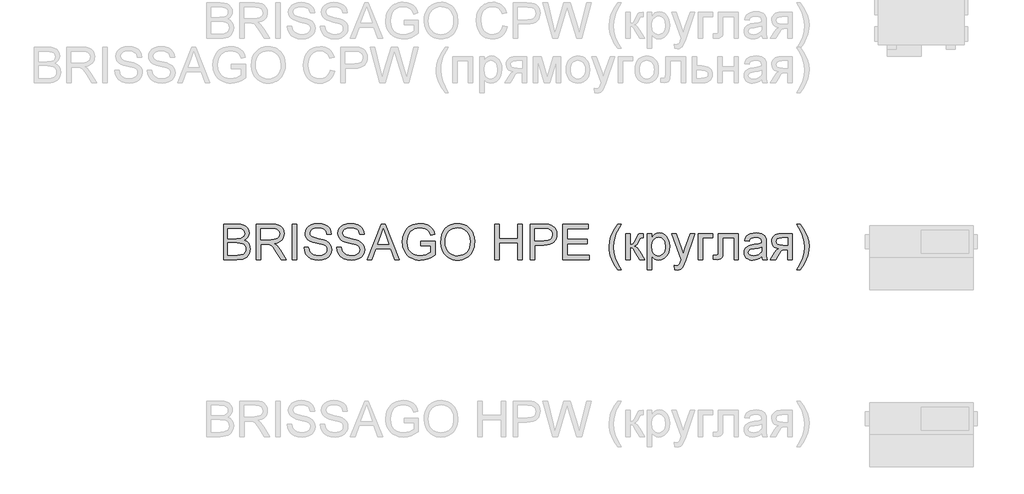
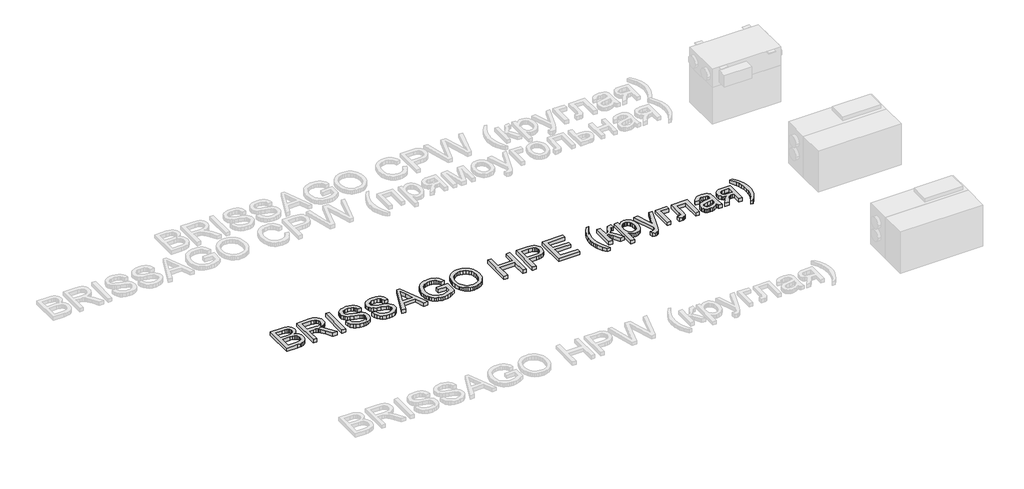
# One storey, part 16 of 28: 1 proxy.
"""IFC4 building model written with IfcOpenShell, lengths in millimetres."""

import ifcopenshell
import ifcopenshell.guid

model = None  # the IFC model being written
_history = None  # IfcOwnerHistory: only IFC2X3 demands one
_inside = {}  # id of a spatial element -> (the spatial element, [elements in it])
_under = {}  # id of a project, library or spatial element -> (it, [spatial elements below it])
_declared = {}  # id of a project -> (the project, [libraries it declares])
_typed = {}  # id of a type object -> (the type object, [elements of that type])
_made_of = {}  # id of a material, layer set ... -> (it, [elements and type objects made of it])


def new_model(schema):
    """Start an empty IFC model of exactly this schema.

    Asked for "IFC4X3", IfcOpenShell would pick the latest addendum, in which some entities
    have other attributes; the version numbers below select the first issue.
    IFC2X3 requires an IfcOwnerHistory on every rooted entity: one is made here for all.
    """
    global model, _history
    if schema == "IFC4X3":
        model = ifcopenshell.file(schema_version=(4, 3, 0, 0))
    else:
        model = ifcopenshell.file(schema=schema)
    _inside.clear()
    _under.clear()
    _declared.clear()
    _typed.clear()
    _made_of.clear()
    _history = None
    if model.schema == "IFC2X3":
        org = make("IfcOrganization", Name="unknown")
        user = make(
            "IfcPersonAndOrganization",
            ThePerson=make("IfcPerson", FamilyName="unknown"),
            TheOrganization=org,
        )
        app = make(
            "IfcApplication",
            ApplicationDeveloper=org,
            Version="unknown",
            ApplicationFullName="unknown",
            ApplicationIdentifier="unknown",
        )
        _history = make(
            "IfcOwnerHistory",
            OwningUser=user,
            OwningApplication=app,
            ChangeAction="ADDED",
            CreationDate=0,
        )
    return model


def make(cls, **values):
    """One entity of the class cls with the attributes given. An attribute that is None is left unset."""
    return model.create_entity(
        cls, **{name: value for name, value in values.items() if value is not None}
    )


def rooted(cls, **values):
    """An entity with a GlobalId (a new one), such as an element, a storey or a relation."""
    return make(cls, GlobalId=ifcopenshell.guid.new(), OwnerHistory=_history, **values)


def si_unit(unit_type, name, prefix=None):
    """IfcSIUnit, for example si_unit("LENGTHUNIT", "METRE", prefix="MILLI")."""
    return make("IfcSIUnit", UnitType=unit_type, Prefix=prefix, Name=name)


def assignment(units):
    """IfcUnitAssignment: the units of a project."""
    return None if units is None else make("IfcUnitAssignment", Units=units)


def point(xyz):
    """IfcCartesianPoint."""
    return None if xyz is None else make("IfcCartesianPoint", Coordinates=xyz)


def direction(xyz):
    """IfcDirection."""
    return None if xyz is None else make("IfcDirection", DirectionRatios=xyz)


def frame(location, z_axis=None, x_axis=None):
    """IfcAxis2Placement3D, a coordinate frame: its origin and axes. An axis left out is left unset."""
    return make(
        "IfcAxis2Placement3D",
        Location=point(location),
        Axis=direction(z_axis),
        RefDirection=direction(x_axis),
    )


def origin():
    """The frame at (0, 0, 0) with its axes left unset."""
    return frame((0.0, 0.0, 0.0))


def origin_with_axes():
    """The frame at (0, 0, 0) with the z axis (0, 0, 1) and the x axis (1, 0, 0) written out."""
    return frame((0.0, 0.0, 0.0), z_axis=(0.0, 0.0, 1.0), x_axis=(1.0, 0.0, 0.0))


def place(relative_to, where):
    """IfcLocalPlacement: puts the frame where relative to a parent placement (None: the world)."""
    return make(
        "IfcLocalPlacement", PlacementRelTo=relative_to, RelativePlacement=where
    )


def context(
    kind, dimensions, precision=None, world=None, true_north=None, identifier=None
):
    """IfcGeometricRepresentationContext, for example the 3D "Model" context."""
    return make(
        "IfcGeometricRepresentationContext",
        ContextIdentifier=identifier,
        ContextType=kind,
        CoordinateSpaceDimension=dimensions,
        Precision=precision,
        WorldCoordinateSystem=world,
        TrueNorth=true_north,
    )


def project(units=None, contexts=None):
    """IfcProject with its units and contexts."""
    return rooted(
        "IfcProject",
        Name="project",
        RepresentationContexts=contexts,
        UnitsInContext=assignment(units),
    )


def spatial(cls, under=None, at=None, **own):
    """A site, building, storey or space (cls), placed at a placement, below another one or the project."""
    s = rooted(cls, ObjectPlacement=at, **own)
    if under is not None:
        _under.setdefault(under.id(), (under, []))[1].append(s)
    return s


def polyline(points):
    """IfcPolyline through the points."""
    return make("IfcPolyline", Points=[point(p) for p in points])


def outline(outer, holes=None, kind="AREA"):
    """IfcArbitraryClosedProfileDef: a profile drawn as a closed curve; with holes, ...WithVoids."""
    if holes is None:
        return make("IfcArbitraryClosedProfileDef", ProfileType=kind, OuterCurve=outer)
    return make(
        "IfcArbitraryProfileDefWithVoids",
        ProfileType=kind,
        OuterCurve=outer,
        InnerCurves=holes,
    )


def extrude(swept, where, along, depth):
    """IfcExtrudedAreaSolid: the profile swept, set in the frame where, extruded along a direction by depth."""
    return make(
        "IfcExtrudedAreaSolid",
        SweptArea=swept,
        Position=where,
        ExtrudedDirection=direction(along),
        Depth=depth,
    )


def shape(context_of_items, identifier, shape_type, items):
    """IfcShapeRepresentation: the items that make up one representation, for example the "Body"."""
    return make(
        "IfcShapeRepresentation",
        ContextOfItems=context_of_items,
        RepresentationIdentifier=identifier,
        RepresentationType=shape_type,
        Items=items,
    )


def made_of(thing, what):
    """Note that an element or type object is made of a material, layer set ...; save() writes the relation."""
    if what is not None:
        _made_of.setdefault(what.id(), (what, []))[1].append(thing)
    return thing


def element(
    cls,
    number,
    at=None,
    inside=None,
    cuts=None,
    type_object=None,
    material=None,
    context=None,
    identifier="Body",
    shape_type=None,
    held_by="IfcProductDefinitionShape",
    body=None,
    shapes=None,
    **own,
):
    """One element of the class cls, such as IfcWall. Its Tag is "e" and its number.

    at: its placement. inside: the storey or other place that contains it. cuts: it is an
    opening in that element (IfcRelVoidsElement). A single representation is given by context,
    identifier, shape_type and body (its items); several are given by shapes. held_by: the class
    of the entity that holds the representations. save() writes the other relations.
    """
    e = rooted(cls, Tag="e%d" % number, ObjectPlacement=at, **own)
    if body is not None:
        shapes = [shape(context, identifier, shape_type, body)]
    if shapes is not None:
        e.Representation = make(held_by, Representations=shapes)
    if inside is not None:
        _inside.setdefault(inside.id(), (inside, []))[1].append(e)
    if cuts is not None:
        rooted(
            "IfcRelVoidsElement", RelatingBuildingElement=cuts, RelatedOpeningElement=e
        )
    if type_object is not None:
        _typed.setdefault(type_object.id(), (type_object, []))[1].append(e)
    return made_of(e, material)


def aggregate(whole, parts):
    """IfcRelAggregates: a whole, such as a stair, and the parts it consists of."""
    return rooted("IfcRelAggregates", RelatingObject=whole, RelatedObjects=parts)


def save(model, path):
    """Write the relations noted so far, then the file.

    IfcRelAggregates (storeys below a building ...), IfcRelContainedInSpatialStructure (elements
    in a storey), IfcRelDefinesByType, IfcRelAssociatesMaterial and IfcRelDeclares: one each for
    every whole, place, type object, material and project.
    """
    for whole, parts in _under.values():
        aggregate(whole, parts)
    for where, things in _inside.values():
        rooted(
            "IfcRelContainedInSpatialStructure",
            RelatedElements=things,
            RelatingStructure=where,
        )
    for kind, things in _typed.values():
        rooted("IfcRelDefinesByType", RelatedObjects=things, RelatingType=kind)
    for what, things in _made_of.values():
        rooted("IfcRelAssociatesMaterial", RelatedObjects=things, RelatingMaterial=what)
    for by, libraries in _declared.values():
        rooted("IfcRelDeclares", RelatingContext=by, RelatedDefinitions=libraries)
    model.write(path)


model = new_model("IFC4")

# Units and contexts
model_context = context("Model", 3, world=origin())
ifc_project = project(units=[si_unit("LENGTHUNIT", "METRE", prefix="MILLI")], contexts=[model_context])

# Site, building, storey
site = spatial("IfcSite", under=ifc_project)
building = spatial("IfcBuilding", under=site)
storey = spatial("IfcBuildingStorey", under=building, Name="Уровень 1", Elevation=0.0)

# Proxy
placement = place(None, origin())
element("IfcBuildingElementProxy", 1, Name="400 мм Arial", ObjectType="400 мм Arial", at=placement, inside=storey, context=model_context, shape_type="SweptSolid", body=[
    extrude(outline(polyline([(-28564.9960221, 5771.3067858), (-28564.9960221, 6173.1320263), (-28411.6628065, 6173.1320263), (-28369.4912671, 6170.1767077), (-28336.5658286, 6161.3107516), (-28311.3291237, 6146.3134289), (-28292.2237854, 6124.9640104), (-28280.1940442, 6099.8499329), (-28276.1841304, 6073.558633), (-28279.556382, 6049.3642604), (-28289.6731369, 6026.6168904), (-28306.6079714, 6006.7144745), (-28330.434462, 5991.0549642), (-28301.9726583, 5976.1925316), (-28280.9420709, 5953.5800516), (-28267.9558365, 5924.7135777), (-28263.6270917, 5891.0891634), (-28266.5824103, 5863.0688181), (-28275.4483664, 5837.0840865), (-28288.6798555, 5814.9866413), (-28304.7317732, 5798.6281553), (-28324.3889345, 5786.782355), (-28348.4361543, 5778.2229673), (-28377.6582474, 5773.0358311), (-28412.8400289, 5771.3067858), (-28564.9960221, 5771.3067858)]), holes=[polyline([(-28514.767867, 6009.8905224), (-28423.0426229, 6009.8905224), (-28369.4790044, 6014.2070044), (-28350.7292854, 6021.6504835), (-28337.2525416, 6032.7973079), (-28329.1223495, 6047.4757995), (-28326.4122855, 6065.51428), (-28328.9384085, 6083.025463), (-28336.5167776, 6098.2803031), (-28348.8040363, 6110.187417), (-28365.4568279, 6117.6554215), (-28391.0123639, 6121.5917588), (-28430.0078553, 6122.9038713), (-28514.767867, 6122.9038713), (-28514.767867, 6009.8905224)]), polyline([(-28514.767867, 5821.5349408), (-28411.7609084, 5821.5349408), (-28374.4821995, 5823.4969781), (-28342.9424498, 5834.4353361), (-28331.3664297, 5843.8653779), (-28322.0467525, 5856.7535105), (-28315.9031232, 5872.5233854), (-28313.8552467, 5890.5986541), (-28316.2587424, 5911.5924532), (-28323.4692295, 5929.6431965), (-28336.0630565, 5943.7576024), (-28354.6165718, 5952.9423895), (-28380.895609, 5957.9823728), (-28416.6660016, 5959.6623673), (-28514.767867, 5959.6623673), (-28514.767867, 5821.5349408)])]), origin_with_axes(), (0.0, 0.0, 1.0), 50.0),
    extrude(outline(polyline([(-28194.5633784, 5771.3067858), (-28194.5633784, 6173.1320263), (-28021.413586, 6173.1320263), (-27974.8765136, 6170.4219623), (-27941.0191074, 6162.2917702), (-27916.2729118, 6147.2821848), (-27897.0694717, 6123.9339409), (-27884.7454248, 6094.9816278), (-27880.6374092, 6063.1598353), (-27882.3388634, 6042.5216553), (-27887.4432261, 6023.5757326), (-27895.9504973, 6006.322067), (-27907.8606769, 5990.7606586), (-27923.3270491, 5977.3881481), (-27942.5028981, 5966.7011761), (-27965.3882238, 5958.6997427), (-27991.9830264, 5953.3838479), (-27963.4353836, 5931.8995394), (-27922.7231095, 5880.1998563), (-27855.7195354, 5771.3067858), (-27914.0901453, 5771.3067858), (-27966.3784396, 5854.5952695), (-28004.1476577, 5909.7285178), (-28018.1884872, 5925.804961), (-28030.6842123, 5935.7745631), (-28054.5720165, 5945.3394949), (-28083.7082705, 5947.1053285), (-28144.3352234, 5947.1053285), (-28144.3352234, 5771.3067858), (-28194.5633784, 5771.3067858)]), holes=[polyline([(-28144.3352234, 5997.3334836), (-28031.9104856, 5997.3334836), (-27999.6227092, 5999.1115799), (-27974.5699453, 6004.4458688), (-27955.7098617, 6013.6919696), (-27942.000126, 6027.2055016), (-27933.6492047, 6043.5517249), (-27930.8655643, 6061.2958998), (-27936.1753277, 6085.7968407), (-27952.1046181, 6105.5398411), (-27964.2661838, 6113.1366043), (-27979.5118268, 6118.5628637), (-28019.255345, 6122.9038713), (-28144.3352234, 6122.9038713), (-28144.3352234, 5997.3334836)])]), origin_with_axes(), (0.0, 0.0, 1.0), 50.0),
    extrude(outline(polyline([(-27786.4596184, 5771.3067858), (-27786.4596184, 6173.1320263), (-27736.2314634, 6173.1320263), (-27736.2314634, 5771.3067858), (-27786.4596184, 5771.3067858)])), origin_with_axes(), (0.0, 0.0, 1.0), 50.0),
    extrude(outline(polyline([(-27654.6107114, 5909.4342122), (-27604.3825563, 5909.4342122), (-27598.6190717, 5881.5610197), (-27588.1957485, 5859.1570062), (-27571.9353643, 5841.3760431), (-27548.6606968, 5827.3720018), (-27520.2111558, 5818.2853165), (-27488.4261514, 5815.2564214), (-27460.4425943, 5817.5495525), (-27435.9416534, 5824.4289459), (-27416.0882884, 5835.3182529), (-27402.047459, 5849.6411253), (-27393.6965377, 5866.0854504), (-27390.9128972, 5883.339116), (-27392.9975619, 5900.1513232), (-27399.2515558, 5914.682662), (-27411.9557474, 5927.0802852), (-27433.3910049, 5937.4913457), (-27506.5259456, 5956.6702604), (-27554.534546, 5969.3621892), (-27585.2526925, 5981.4409814), (-27610.2564055, 5998.3390277), (-27627.9760549, 6018.8177921), (-27638.5342682, 6042.4358162), (-27642.0536726, 6068.7516416), (-27637.7004023, 6098.1699385), (-27624.6405915, 6125.6016726), (-27603.2175966, 6148.8518147), (-27573.7747743, 6165.7253355), (-27538.4335773, 6175.9892432), (-27499.3154585, 6179.4105457), (-27456.9354526, 6175.8298276), (-27419.8529475, 6165.0876734), (-27389.3923183, 6147.4048122), (-27366.8779402, 6123.0019731), (-27352.6286443, 6093.3997353), (-27346.9632615, 6060.1186774), (-27397.1914166, 6060.1186774), (-27406.412992, 6090.0887973), (-27414.776176, 6101.9468603), (-27425.6409576, 6111.7202586), (-27455.6846538, 6124.8168576), (-27497.3534212, 6129.1823907), (-27540.0032071, 6124.8659086), (-27556.3065109, 6119.470306), (-27569.2620885, 6111.9164624), (-27586.1846603, 6092.860175), (-27591.8255175, 6070.2231696), (-27587.8278665, 6050.9216276), (-27575.8349135, 6035.3970074), (-27547.4834744, 6021.5155934), (-27493.821754, 6007.3398739), (-27438.443251, 5993.8753928), (-27404.941464, 5982.1276945), (-27376.307982, 5963.905273), (-27356.3319897, 5941.4154203), (-27344.596554, 5914.9033912), (-27340.6847422, 5884.6144403), (-27345.1851652, 5853.651039), (-27358.6864345, 5824.5270477), (-27380.6367268, 5799.4620211), (-27410.4842194, 5780.6755139), (-27446.3772394, 5768.9400782), (-27486.4641141, 5765.0282664), (-27535.6744623, 5769.2466466), (-27576.17827, 5781.9017872), (-27608.441521, 5803.0427392), (-27632.9301991, 5832.7185535), (-27648.6510231, 5868.8690909), (-27654.6107114, 5909.4342122)])), origin_with_axes(), (0.0, 0.0, 1.0), 50.0),
    extrude(outline(polyline([(-27284.1780677, 5909.4342122), (-27233.9499126, 5909.4342122), (-27228.186428, 5881.5610197), (-27217.7631048, 5859.1570062), (-27201.5027206, 5841.3760431), (-27178.2280531, 5827.3720018), (-27149.7785121, 5818.2853165), (-27117.9935077, 5815.2564214), (-27090.0099506, 5817.5495525), (-27065.5090098, 5824.4289459), (-27045.6556448, 5835.3182529), (-27031.6148153, 5849.6411253), (-27023.263894, 5866.0854504), (-27020.4802536, 5883.339116), (-27022.5649182, 5900.1513232), (-27028.8189121, 5914.682662), (-27041.5231037, 5927.0802852), (-27062.9583613, 5937.4913457), (-27136.0933019, 5956.6702604), (-27184.1019023, 5969.3621892), (-27214.8200489, 5981.4409814), (-27239.8237618, 5998.3390277), (-27257.5434112, 6018.8177921), (-27268.1016245, 6042.4358162), (-27271.6210289, 6068.7516416), (-27267.2677587, 6098.1699385), (-27254.2079478, 6125.6016726), (-27232.784953, 6148.8518147), (-27203.3421306, 6165.7253355), (-27168.0009336, 6175.9892432), (-27128.8828148, 6179.4105457), (-27086.502809, 6175.8298276), (-27049.4203038, 6165.0876734), (-27018.9596746, 6147.4048122), (-26996.4452965, 6123.0019731), (-26982.1960006, 6093.3997353), (-26976.5306179, 6060.1186774), (-27026.7587729, 6060.1186774), (-27035.9803483, 6090.0887973), (-27044.3435323, 6101.9468603), (-27055.2083139, 6111.7202586), (-27085.2520102, 6124.8168576), (-27126.9207775, 6129.1823907), (-27169.5705635, 6124.8659086), (-27185.8738672, 6119.470306), (-27198.8294448, 6111.9164624), (-27215.7520166, 6092.860175), (-27221.3928739, 6070.2231696), (-27217.3952228, 6050.9216276), (-27205.4022698, 6035.3970074), (-27177.0508307, 6021.5155934), (-27123.3891103, 6007.3398739), (-27068.0106073, 5993.8753928), (-27034.5088203, 5982.1276945), (-27005.8753383, 5963.905273), (-26985.899346, 5941.4154203), (-26974.1639104, 5914.9033912), (-26970.2520985, 5884.6144403), (-26974.7525216, 5853.651039), (-26988.2537908, 5824.5270477), (-27010.2040832, 5799.4620211), (-27040.0515757, 5780.6755139), (-27075.9445957, 5768.9400782), (-27116.0314704, 5765.0282664), (-27165.2418187, 5769.2466466), (-27205.7456263, 5781.9017872), (-27238.0088773, 5803.0427392), (-27262.4975554, 5832.7185535), (-27278.2183794, 5868.8690909), (-27284.1780677, 5909.4342122)])), origin_with_axes(), (0.0, 0.0, 1.0), 50.0),
    extrude(outline(polyline([(-26941.7044557, 5771.3067858), (-26781.3079058, 6173.1320263), (-26738.5354924, 6173.1320263), (-26578.1389426, 5771.3067858), (-26631.2120517, 5771.3067858), (-26677.2218266, 5896.8771734), (-26842.7196735, 5896.8771734), (-26888.6313465, 5771.3067858), (-26941.7044557, 5771.3067858)]), holes=[polyline([(-26824.2765228, 5947.1053285), (-26695.5668754, 5947.1053285), (-26731.7664637, 6045.893907), (-26759.9216991, 6122.9038713), (-26784.9376748, 6054.5268711), (-26824.2765228, 5947.1053285)])]), origin_with_axes(), (0.0, 0.0, 1.0), 50.0),
    extrude(outline(polyline([(-26336.1216407, 5928.2697704), (-26336.1216407, 5978.4979254), (-26172.8801367, 5978.4979254), (-26172.8801367, 5828.3039695), (-26212.5500785, 5800.7128199), (-26253.4708191, 5780.9207686), (-26295.5442566, 5769.0013919), (-26338.6722892, 5765.0282664), (-26367.5234346, 5766.6070933), (-26395.0195481, 5771.343574), (-26421.1606295, 5779.2377084), (-26445.946679, 5790.2894967), (-26468.577553, 5804.3333919), (-26488.2531084, 5821.203847), (-26504.9733451, 5840.9008622), (-26518.7382631, 5863.4244373), (-26529.4896144, 5888.0541369), (-26537.169151, 5914.0695253), (-26541.776873, 5941.4706026), (-26543.3127803, 5970.2573687), (-26537.1936765, 6026.8498823), (-26529.5447967, 6053.6654141), (-26518.8363649, 6079.4937958), (-26505.2584536, 6103.2007247), (-26489.0011351, 6123.651898), (-26470.0644094, 6140.8473156), (-26448.4482765, 6154.7869775), (-26424.621786, 6165.5597886), (-26399.0539873, 6173.2546537), (-26371.7448805, 6177.8715727), (-26342.6944656, 6179.4105457), (-26301.3200039, 6175.8420904), (-26264.1148715, 6165.1367243), (-26232.7835882, 6148.0669997), (-26209.0306741, 6125.4054688), (-26191.4581774, 6096.0607484), (-26178.6681467, 6058.941455), (-26224.9722272, 6045.893907), (-26235.3097112, 6072.3691479), (-26247.8790127, 6092.3451402), (-26264.5072789, 6107.4037765), (-26287.021657, 6119.1269495), (-26313.86478, 6126.6685304), (-26343.4792806, 6129.1823907), (-26378.1460272, 6126.4723266), (-26407.7850533, 6118.3421345), (-26432.2859942, 6105.8096212), (-26451.5384853, 6089.8925936), (-26466.3150788, 6071.4126547), (-26477.3883268, 6051.1914077), (-26489.1605507, 6013.2750367), (-26493.0846253, 5972.3175079), (-26488.363473, 5924.2843821), (-26474.2000162, 5884.7615931), (-26451.0234505, 5854.0311837), (-26419.2629716, 5832.375197), (-26382.0946273, 5819.5361153), (-26342.6944656, 5815.2564214), (-26307.9050916, 5818.4815203), (-26273.9741089, 5828.1568167), (-26244.5067611, 5841.4864077), (-26223.1082917, 5855.67439), (-26223.1082917, 5928.2697704), (-26336.1216407, 5928.2697704)])), origin_with_axes(), (0.0, 0.0, 1.0), 50.0),
    extrude(outline(polyline([(-26110.0949428, 5966.9219053), (-26106.7472167, 6014.0537203), (-26096.7040382, 6055.7776699), (-26079.9654074, 6092.0937542), (-26056.5313243, 6123.0019731), (-26027.8058719, 6147.6807237), (-25995.193133, 6165.3084026), (-25958.6931077, 6175.8850099), (-25918.305796, 6179.4105457), (-25891.2726007, 6177.7550768), (-25865.6005688, 6172.7886698), (-25841.2897003, 6164.5113249), (-25818.3399952, 6152.9230421), (-25797.3952469, 6138.3733092), (-25779.099249, 6121.2116141), (-25763.4520015, 6101.4379569), (-25750.4535043, 6079.0523374), (-25740.2386476, 6054.5636593), (-25732.9423214, 6028.4808258), (-25727.1052604, 5971.532693), (-25728.6411677, 5941.8752728), (-25733.2488897, 5913.8242707), (-25740.9284263, 5887.3796866), (-25751.6797777, 5862.5415206), (-25765.2484919, 5839.9658288), (-25781.3801174, 5820.3086675), (-25800.0746541, 5803.5700367), (-25821.3321021, 5789.7499364), (-25844.3155297, 5778.9342058), (-25868.1880055, 5771.2086839), (-25892.9495295, 5766.5733707), (-25918.6001016, 5765.0282664), (-25946.1054121, 5766.735852), (-25972.1146692, 5771.8586087), (-25996.6278728, 5780.3965367), (-26019.6450229, 5792.3496359), (-26040.5652457, 5807.254988), (-26058.7876672, 5824.6496751), (-26074.3122874, 5844.5336969), (-26087.1391063, 5866.9070536), (-26104.3559837, 5915.5287906), (-26110.0949428, 5966.9219053)]), holes=[polyline([(-26059.8667877, 5966.431396), (-26057.3559931, 5933.1319441), (-26049.8236093, 5903.5726258), (-26037.2696362, 5877.7534411), (-26019.6940739, 5855.67439), (-25998.329327, 5837.9915287), (-25974.4078003, 5825.3609136), (-25947.9294937, 5817.7825445), (-25918.8944072, 5815.2564214), (-25889.36268, 5817.8070699), (-25862.5716737, 5825.4590154), (-25838.5213883, 5838.2122579), (-25817.2118237, 5856.0667974), (-25799.7650201, 5878.6118324), (-25787.3030175, 5905.4365612), (-25779.825816, 5936.5409839), (-25777.3334155, 5971.9251005), (-25781.6008466, 6016.3897709), (-25794.40314, 6054.8211767), (-25815.409202, 6086.2505618), (-25844.2879386, 6109.7091704), (-25879.1263635, 6124.3140856), (-25918.0114904, 6129.1823907), (-25946.0379671, 6126.8371429), (-25972.0410928, 6119.8013998), (-25996.0208675, 6108.0751612), (-26017.9772912, 6091.6584272), (-26036.303946, 6069.7602514), (-26049.3944136, 6041.5896876), (-26057.2486942, 6007.1467358), (-26059.8667877, 5966.431396)])]), origin_with_axes(), (0.0, 0.0, 1.0), 50.0),
    extrude(outline(polyline([(-25501.0785625, 5771.3067858), (-25501.0785625, 6173.1320263), (-25450.8504075, 6173.1320263), (-25450.8504075, 6009.8905224), (-25237.3807484, 6009.8905224), (-25237.3807484, 6173.1320263), (-25187.1525933, 6173.1320263), (-25187.1525933, 5771.3067858), (-25237.3807484, 5771.3067858), (-25237.3807484, 5959.6623673), (-25450.8504075, 5959.6623673), (-25450.8504075, 5771.3067858), (-25501.0785625, 5771.3067858)])), origin_with_axes(), (0.0, 0.0, 1.0), 50.0),
    extrude(outline(polyline([(-25099.2533219, 5771.3067858), (-25099.2533219, 6173.1320263), (-24950.3346903, 6173.1320263), (-24890.2963487, 6169.3060536), (-24863.5268022, 6162.1568802), (-24841.4906707, 6150.5195464), (-24823.7464958, 6133.8667547), (-24809.8528191, 6111.6712077), (-24800.8764984, 6085.4902724), (-24797.8843915, 6056.8813159), (-24799.9046768, 6032.2148281), (-24805.9655327, 6009.5226404), (-24816.0669591, 5988.8047527), (-24830.2089561, 5970.061165), (-24849.6239284, 5954.5242821), (-24875.5442807, 5943.4265086), (-24907.9700129, 5936.7678444), (-24946.901125, 5934.5482897), (-25049.0251669, 5934.5482897), (-25049.0251669, 5771.3067858), (-25099.2533219, 5771.3067858)]), holes=[polyline([(-25049.0251669, 5984.7764448), (-24943.958069, 5984.7764448), (-24899.4198222, 5989.3872325), (-24882.8160814, 5995.1507171), (-24869.9892625, 6003.2195955), (-24860.4181993, 6013.3792699), (-24853.5817256, 6025.4151426), (-24848.1125466, 6055.1154823), (-24851.3376454, 6077.6789113), (-24861.0129419, 6096.7106732), (-24875.9366881, 6111.0335456), (-24894.9071364, 6119.470306), (-24945.1352914, 6122.9038713), (-25049.0251669, 6122.9038713), (-25049.0251669, 5984.7764448)])]), origin_with_axes(), (0.0, 0.0, 1.0), 50.0),
    extrude(outline(polyline([(-24728.8206783, 5771.3067858), (-24728.8206783, 6173.1320263), (-24440.0087866, 6173.1320263), (-24440.0087866, 6122.9038713), (-24678.5925232, 6122.9038713), (-24678.5925232, 6003.612003), (-24452.5658254, 6003.612003), (-24452.5658254, 5953.3838479), (-24678.5925232, 5953.3838479), (-24678.5925232, 5821.5349408), (-24433.7302672, 5821.5349408), (-24433.7302672, 5771.3067858), (-24728.8206783, 5771.3067858)])), origin_with_axes(), (0.0, 0.0, 1.0), 50.0),
    extrude(outline(polyline([(-24107.2472592, 5658.2934368), (-24146.1691743, 5712.9116504), (-24178.5673153, 5776.1137772), (-24191.3144265, 5810.1673872), (-24200.4195059, 5844.8341339), (-24205.8825535, 5880.1140172), (-24207.7035694, 5916.0070372), (-24202.2589158, 5978.424349), (-24185.9249552, 6038.1438596), (-24153.5022887, 6105.7850958), (-24107.2472592, 6173.1320263), (-24069.5761429, 6173.1320263), (-24116.5669364, 6093.5714135), (-24132.6065914, 6055.8021954), (-24144.8202737, 6016.4633473), (-24154.3116291, 5966.2106668), (-24157.4754143, 5915.7127316), (-24151.9817098, 5851.3211197), (-24135.5005964, 5786.9540333), (-24108.0320741, 5722.6114723), (-24069.5761429, 5658.2934368), (-24107.2472592, 5658.2934368)])), origin_with_axes(), (0.0, 0.0, 1.0), 50.0),
    extrude(outline(polyline([(-24019.3479878, 6066.3971968), (-23969.1198328, 6066.3971968), (-23969.1198328, 5940.8268091), (-23948.6901193, 5943.083152), (-23935.4708929, 5949.8521807), (-23923.7722455, 5967.5105165), (-23907.9042688, 6002.4347806), (-23884.9974832, 6047.8068933), (-23875.5551787, 6056.967155), (-23864.7884989, 6062.5712241), (-23828.0493503, 6066.3971968), (-23818.4353675, 6066.3971968), (-23818.4353675, 6015.8747361), (-23831.973425, 6016.1690417), (-23847.6697234, 6014.8446666), (-23856.4988913, 6010.871541), (-23873.7648196, 5977.8112124), (-23884.3720838, 5955.7750809), (-23894.0228548, 5942.0530824), (-23905.7092395, 5932.8928208), (-23922.4233448, 5924.5418995), (-23906.5063172, 5917.4724338), (-23890.7364423, 5904.9951028), (-23875.1137203, 5887.1099065), (-23859.638151, 5863.8168448), (-23805.8783288, 5771.3067858), (-23862.9736144, 5771.3067858), (-23915.6543161, 5861.8548075), (-23929.8790866, 5885.9510782), (-23942.1418198, 5900.1635859), (-23954.5271803, 5907.1165556), (-23969.1198328, 5909.4342122), (-23969.1198328, 5771.3067858), (-24019.3479878, 5771.3067858), (-24019.3479878, 6066.3971968)])), origin_with_axes(), (0.0, 0.0, 1.0), 50.0),
    extrude(outline(polyline([(-23774.4857318, 5658.2934368), (-23774.4857318, 6066.3971968), (-23724.2575768, 6066.3971968), (-23724.2575768, 6017.1500604), (-23707.8745653, 6041.4425348), (-23689.5295164, 6058.7943022), (-23668.1433098, 6069.2053627), (-23642.6368248, 6072.6757162), (-23608.6690539, 6067.8196739), (-23578.9687141, 6053.2515469), (-23554.7866043, 6029.854252), (-23537.3735232, 5998.510706), (-23526.8520982, 5961.5017773), (-23523.3449565, 5921.1083342), (-23527.3058193, 5878.1519799), (-23539.1884077, 5839.7328369), (-23558.6125771, 5807.8006797), (-23585.1981826, 5784.3052829), (-23616.1615839, 5769.8475205), (-23648.7191404, 5765.0282664), (-23671.809867, 5768.2533652), (-23692.4235215, 5777.9286617), (-23710.0695945, 5792.5335769), (-23724.2575768, 5810.5475319), (-23724.2575768, 5658.2934368), (-23774.4857318, 5658.2934368)]), holes=[polyline([(-23724.2575768, 5916.4975465), (-23718.825186, 5871.4687903), (-23712.0346975, 5854.0311837), (-23702.5280136, 5839.9780915), (-23678.4807938, 5821.436839), (-23664.7189415, 5816.8015258), (-23649.7982609, 5815.2564214), (-23634.6629825, 5816.8567081), (-23620.6497442, 5821.6575682), (-23607.7585459, 5829.6590016), (-23595.9893878, 5840.8610083), (-23586.1822669, 5855.4230039), (-23579.1771806, 5873.504404), (-23574.9741288, 5895.1052085), (-23573.5731115, 5920.2254174), (-23579.0422905, 5965.0089189), (-23585.8787643, 5982.5814156), (-23595.4498275, 5996.9410761), (-23619.4602591, 6016.0709399), (-23633.0657615, 6020.8534058), (-23647.7381218, 6022.4475611), (-23662.3644968, 6020.7522383), (-23676.1263491, 6015.6662697), (-23701.0564856, 5995.3223953), (-23711.206963, 5980.2239051), (-23718.457304, 5962.0536003), (-23722.8075086, 5940.8114807), (-23724.2575768, 5916.4975465)])]), origin_with_axes(), (0.0, 0.0, 1.0), 50.0),
    extrude(outline(polyline([(-23466.838282, 5658.2934368), (-23473.1168014, 5706.6576565), (-23447.6103164, 5702.2430725), (-23434.1948863, 5703.6287614), (-23423.7715631, 5707.7858279), (-23409.1543852, 5723.2368717), (-23395.420124, 5760.221275), (-23391.4960494, 5772.3859063), (-23498.2308789, 6066.3971968), (-23445.2558716, 6066.3971968), (-23388.6510953, 5902.5670816), (-23368.9326204, 5837.0350356), (-23349.2141454, 5894.9151361), (-23291.0397392, 6066.3971968), (-23238.4571394, 6066.3971968), (-23341.1697925, 5764.2434514), (-23367.8534998, 5698.7114054), (-23381.5141846, 5677.7911826), (-23396.9897539, 5663.296632), (-23414.9669207, 5654.8353461), (-23436.1323981, 5652.0149174), (-23466.838282, 5658.2934368)])), origin_with_axes(), (0.0, 0.0, 1.0), 50.0),
    extrude(outline(polyline([(-23196.8619485, 6066.3971968), (-23033.6204445, 6066.3971968), (-23033.6204445, 6016.1690417), (-23146.6337934, 6016.1690417), (-23146.6337934, 5771.3067858), (-23196.8619485, 5771.3067858), (-23196.8619485, 6066.3971968)])), origin_with_axes(), (0.0, 0.0, 1.0), 50.0),
    extrude(outline(polyline([(-22970.8352506, 6066.3971968), (-22744.8085528, 6066.3971968), (-22744.8085528, 5771.6010913), (-22795.0367079, 5771.6010913), (-22795.0367079, 6016.1690417), (-22920.6070956, 6016.1690417), (-22920.6070956, 5875.3928649), (-22923.9916099, 5810.44943), (-22930.331443, 5795.746413), (-22942.5819134, 5783.0299587), (-22961.1722169, 5774.237579), (-22986.5315491, 5771.3067858), (-23027.3419251, 5773.8574343), (-23027.3419251, 5821.5349408), (-23004.8765979, 5821.5349408), (-22982.1660161, 5824.6251496), (-22973.0915936, 5834.4353361), (-22970.8352506, 5878.237819), (-22970.8352506, 6066.3971968)])), origin_with_axes(), (0.0, 0.0, 1.0), 50.0),
    extrude(outline(polyline([(-22481.1107387, 5808.9779021), (-22505.1089075, 5788.4010358), (-22529.8183148, 5774.9365548), (-22555.8030464, 5767.5053385), (-22583.627188, 5765.0282664), (-22605.9913476, 5766.5181884), (-22625.6025236, 5770.9879547), (-22642.4607161, 5778.4375651), (-22656.5659249, 5788.8670197), (-22667.7035523, 5801.6141308), (-22675.6590005, 5816.0167109), (-22680.4322693, 5832.07476), (-22682.023359, 5849.7882781), (-22679.6198633, 5870.610399), (-22672.4093762, 5889.5195335), (-22661.2870772, 5905.7063413), (-22647.1481458, 5918.361482), (-22630.5321424, 5927.9264138), (-22611.9786271, 5934.8425953), (-22568.5195007, 5942.396439), (-22517.1631742, 5950.3426901), (-22481.4050443, 5959.6623673), (-22481.1107387, 5970.8459799), (-22484.5688294, 5993.2622562), (-22494.9431017, 6007.928485), (-22518.1441928, 6018.8177921), (-22550.4687575, 6022.4475611), (-22580.3898264, 6020.0318027), (-22601.2855238, 6012.7845274), (-22615.5348197, 5999.38136), (-22625.5166845, 5978.4979254), (-22675.7448396, 5984.7764448), (-22667.0260363, 6012.2449671), (-22654.0152764, 6033.8273775), (-22635.4985493, 6050.3330164), (-22610.2618444, 6062.5712241), (-22579.396545, 6070.1495932), (-22543.9940344, 6072.6757162), (-22510.0385262, 6070.4438988), (-22483.1218269, 6063.7484465), (-22462.8270035, 6053.6807425), (-22448.7371231, 6041.3321702), (-22439.3929204, 6026.0650674), (-22433.3351302, 6007.241772), (-22430.8825836, 5963.2921363), (-22430.8825836, 5900.8012481), (-22428.3319351, 5813.5396388), (-22418.3255448, 5771.3067858), (-22468.5536999, 5771.3067858), (-22476.5980529, 5788.7689178), (-22481.1107387, 5808.9779021)]), holes=[polyline([(-22481.1107387, 5909.4342122), (-22514.8577804, 5901.0710282), (-22562.1428795, 5894.0322193), (-22605.3567512, 5885.8897645), (-22616.6016775, 5880.3224837), (-22624.9280733, 5872.6460127), (-22630.0784212, 5863.4489628), (-22631.7952039, 5853.3199452), (-22628.0550703, 5838.3839362), (-22616.8346694, 5826.1457285), (-22598.379256, 5817.9787482), (-22572.9340847, 5815.2564214), (-22545.9560717, 5818.2607911), (-22522.1173184, 5827.2739), (-22502.7912509, 5840.55444), (-22489.3512954, 5856.361103), (-22483.391607, 5872.6460127), (-22481.4050443, 5895.2094417), (-22481.1107387, 5909.4342122)])]), origin_with_axes(), (0.0, 0.0, 1.0), 50.0),
    extrude(outline(polyline([(-22135.7921725, 6066.3971968), (-22135.7921725, 5771.3067858), (-22186.0203276, 5771.3067858), (-22186.0203276, 5884.3201347), (-22213.390748, 5884.3201347), (-22235.2184131, 5882.7259794), (-22250.6694569, 5877.9435134), (-22265.556415, 5864.037574), (-22285.6918228, 5835.0729982), (-22325.7173839, 5771.3067858), (-22383.7936882, 5771.3067858), (-22333.3693294, 5851.9465191), (-22311.100206, 5880.8865694), (-22290.5969161, 5893.7379137), (-22324.932569, 5904.2593388), (-22338.2744227, 5913.0701126), (-22349.0656279, 5924.2475939), (-22363.3394493, 5950.8331994), (-22368.0973897, 5981.1466758), (-22366.4725776, 5999.2342072), (-22361.5981412, 6015.5313796), (-22353.4740804, 6030.038193), (-22342.1003954, 6042.7546473), (-22327.6487644, 6053.0982627), (-22310.2908656, 6060.4865594), (-22290.026699, 6064.9195375), (-22266.8562647, 6066.3971968), (-22135.7921725, 6066.3971968)]), holes=[polyline([(-22186.0203276, 6016.1690417), (-22252.2390867, 6016.1690417), (-22286.4398496, 6013.262774), (-22305.8517562, 6004.5439707), (-22314.864865, 5991.9256183), (-22317.8692347, 5977.3207031), (-22313.442388, 5958.1785766), (-22300.161848, 5944.8980365), (-22275.6241189, 5937.1357264), (-22237.4257051, 5934.5482897), (-22186.0203276, 5934.5482897), (-22186.0203276, 6016.1690417)])]), origin_with_axes(), (0.0, 0.0, 1.0), 50.0),
    extrude(outline(polyline([(-22047.8929011, 5658.2934368), (-22085.5640175, 5658.2934368), (-22047.1080862, 5722.6114723), (-22019.6395639, 5786.9540333), (-22003.1584505, 5851.3211197), (-21997.6647461, 5915.7127316), (-22000.8285312, 5965.8427848), (-22010.3198867, 6015.5804305), (-22022.3128397, 6054.992855), (-22038.2789183, 6092.7865986), (-22085.5640175, 6173.1320263), (-22047.8929011, 6173.1320263), (-22001.6378716, 6105.7850958), (-21969.2152051, 6038.1438596), (-21952.8812445, 5978.424349), (-21947.436591, 5916.0070372), (-21949.2668039, 5880.1140172), (-21954.7574427, 5844.8341339), (-21963.9085073, 5810.1673872), (-21976.7199978, 5776.1137772), (-22009.1549271, 5712.9116504), (-22047.8929011, 5658.2934368)])), origin_with_axes(), (0.0, 0.0, 1.0), 50.0),
])

save(model, "model.ifc")
